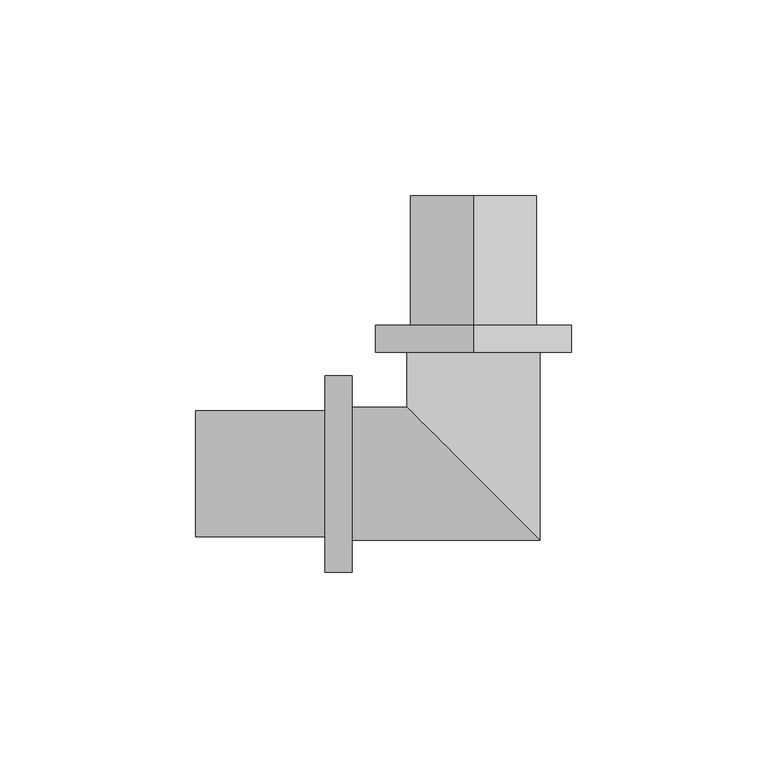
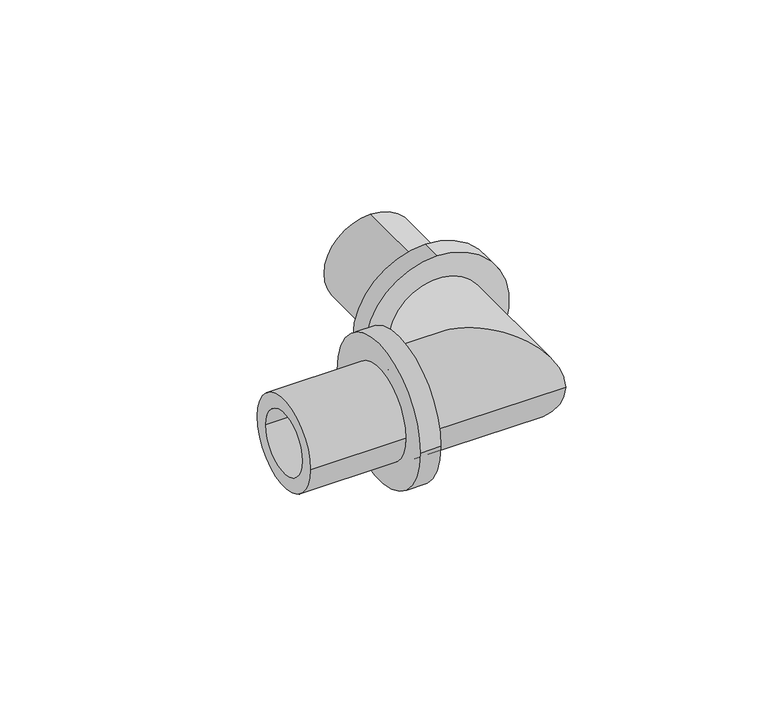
"""IFC4 building model written with IfcOpenShell, lengths in millimetres: pipe fitting geometry, RAUTITAN_Corner_PX : RTI PX C DE."""

from ifc_helpers import new_model, si_unit, frame, origin, place, context, project, spatial, polyline, circle_curve, ellipse_curve, source, transform, mapped, element, save
from ifc_brep_helpers import plane_surface, cylinder_surface, revolved_surface, advanced_brep


def pipe_fitting_2a92aeec(model_context):
    return source(origin(), model_context, "Body", "AdvancedBrep", [
        advanced_brep(
        [(0.0, 38.0, 25.1), (0.0, 38.0, -25.1), (0.0, 31.0, -25.1), (0.0, 31.0, 25.1), (0.0, 71.0, 16.1), (0.0, 71.0, -16.1), (0.0, 38.0, -16.1), (0.0, 38.0, 16.1), (0.0, 31.0, 11.0), (0.0, 31.0, -11.0), (0.0, 71.0, -11.0), (0.0, 71.0, 11.0)],
        [
            (0, 1, circle_curve(frame((0.0, 38.0, 0.0), z_axis=(0.0, -1.0, 0.0), x_axis=(0.0, 0.0, -1.0)), 25.1)),
            (1, 2),
            (2, 3, circle_curve(frame((0.0, 31.0, 0.0), z_axis=(0.0, 1.0, 0.0), x_axis=(0.0, 0.0, -1.0)), 25.1)),
            (3, 0),
            (4, 5, circle_curve(frame((0.0, 71.0, 0.0), z_axis=(0.0, -1.0, 0.0), x_axis=(0.0, 0.0, -1.0)), 16.1)),
            (5, 6),
            (6, 7, circle_curve(frame((0.0, 38.0, 0.0), z_axis=(0.0, 1.0, 0.0), x_axis=(0.0, 0.0, -1.0)), 16.1)),
            (7, 4),
            (8, 9, circle_curve(frame((0.0, 31.0, 0.0), z_axis=(0.0, -1.0, 0.0), x_axis=(0.0, 0.0, -1.0)), 11.0)),
            (9, 10),
            (10, 11, circle_curve(frame((0.0, 71.0, 0.0), z_axis=(0.0, 1.0, 0.0), x_axis=(0.0, 0.0, -1.0)), 11.0)),
            (11, 8),
            (1, 0, circle_curve(frame((0.0, 38.0, 0.0), z_axis=(0.0, -1.0, 0.0), x_axis=(0.0, 0.0, 1.0)), 25.1)),
            (3, 2, circle_curve(frame((0.0, 31.0, 0.0), z_axis=(0.0, 1.0, 0.0), x_axis=(0.0, 0.0, 1.0)), 25.1)),
            (6, 7, circle_curve(frame((0.0, 38.0, 0.0), z_axis=(0.0, -1.0, 0.0), x_axis=(0.0, 0.0, 1.0)), 16.1)),
            (5, 4, circle_curve(frame((0.0, 71.0, 0.0), z_axis=(0.0, -1.0, 0.0), x_axis=(0.0, 0.0, 1.0)), 16.1)),
            (10, 11, circle_curve(frame((0.0, 71.0, 0.0), z_axis=(0.0, -1.0, 0.0), x_axis=(0.0, 0.0, 1.0)), 11.0)),
            (9, 8, circle_curve(frame((0.0, 31.0, 0.0), z_axis=(0.0, -1.0, 0.0), x_axis=(0.0, 0.0, 1.0)), 11.0)),
        ],
        [
            cylinder_surface(frame((0.0, 31.0, 0.0), z_axis=(0.0, 1.0, 0.0), x_axis=(0.0, 0.0, -1.0)), 25.1),
            cylinder_surface(frame((0.0, 31.0, 0.0), z_axis=(0.0, 1.0, 0.0), x_axis=(0.0, 0.0, -1.0)), 16.1),
            revolved_surface(polyline([(0.0, 71.0, -11.0), (0.0, 31.0, -11.0)]), (0.0, 31.0, 0.0), (0.0, 1.0, 0.0)),
            cylinder_surface(frame((0.0, 31.0, 0.0), z_axis=(0.0, 1.0, 0.0), x_axis=(0.0, 0.0, 1.0)), 25.1),
            plane_surface(frame((0.0, 38.0, 0.0), z_axis=(0.0, 1.0, 0.0), x_axis=(0.0, 0.0, 1.0))),
            cylinder_surface(frame((0.0, 31.0, 0.0), z_axis=(0.0, 1.0, 0.0), x_axis=(0.0, 0.0, 1.0)), 16.1),
            plane_surface(frame((0.0, 71.0, 0.0), z_axis=(0.0, 1.0, 0.0), x_axis=(0.0, 0.0, 1.0))),
            revolved_surface(polyline([(0.0, 71.0, 11.0), (0.0, 31.0, 11.0)]), (0.0, 31.0, 0.0), (0.0, 1.0, 0.0)),
            plane_surface(frame((0.0, 31.0, 0.0), z_axis=(0.0, -1.0, 0.0), x_axis=(0.0, 0.0, 1.0))),
        ],
        [
            (0, [[1, 2, 3, 4]]),
            (1, [[5, 6, 7, 8]]),
            (2, [[9, 10, 11, 12]]),
            (3, [[13, -4, 14, -2]]),
            (4, [[-13, -1], [15, -7]]),
            (5, [[16, -8, -15, -6]]),
            (6, [[-16, -5], [17, -11]]),
            (7, [[18, -12, -17, -10]]),
            (8, [[-14, -3], [-18, -9]]),
        ],
    ),
        advanced_brep(
        [(-38.0, -25.1, 0.0), (-38.0, 25.1, 0.0), (-31.0, 25.1, 0.0), (-31.0, -25.1, 0.0), (-71.0, -16.1, 0.0), (-71.0, 16.1, 0.0), (-38.0, 16.1, 0.0), (-38.0, -16.1, 0.0), (-31.0, -11.0, 0.0), (-31.0, 11.0, 0.0), (-71.0, 11.0, 0.0), (-71.0, -11.0, 0.0)],
        [
            (0, 1, circle_curve(frame((-38.0, 0.0, 0.0), z_axis=(1.0, 0.0, 0.0), x_axis=(0.0, 1.0, 0.0)), 25.1)),
            (1, 2),
            (2, 3, circle_curve(frame((-31.0, 0.0, 0.0), z_axis=(-1.0, 0.0, 0.0), x_axis=(0.0, 1.0, 0.0)), 25.1)),
            (3, 0),
            (4, 5, circle_curve(frame((-71.0, 0.0, 0.0), z_axis=(1.0, 0.0, 0.0), x_axis=(0.0, 1.0, 0.0)), 16.1)),
            (5, 6),
            (6, 7, circle_curve(frame((-38.0, 0.0, 0.0), z_axis=(-1.0, 0.0, 0.0), x_axis=(0.0, 1.0, 0.0)), 16.1)),
            (7, 4),
            (8, 9, circle_curve(frame((-31.0, 0.0, 0.0), z_axis=(1.0, 0.0, 0.0), x_axis=(0.0, 1.0, 0.0)), 11.0)),
            (9, 10),
            (10, 11, circle_curve(frame((-71.0, 0.0, 0.0), z_axis=(-1.0, 0.0, 0.0), x_axis=(0.0, 1.0, 0.0)), 11.0)),
            (11, 8),
            (1, 0, circle_curve(frame((-38.0, 0.0, 0.0), z_axis=(1.0, 0.0, 0.0), x_axis=(0.0, -1.0, 0.0)), 25.1)),
            (3, 2, circle_curve(frame((-31.0, 0.0, 0.0), z_axis=(-1.0, 0.0, 0.0), x_axis=(0.0, -1.0, 0.0)), 25.1)),
            (6, 7, circle_curve(frame((-38.0, 0.0, 0.0), z_axis=(1.0, 0.0, 0.0), x_axis=(0.0, -1.0, 0.0)), 16.1)),
            (5, 4, circle_curve(frame((-71.0, 0.0, 0.0), z_axis=(1.0, 0.0, 0.0), x_axis=(0.0, -1.0, 0.0)), 16.1)),
            (10, 11, circle_curve(frame((-71.0, 0.0, 0.0), z_axis=(1.0, 0.0, 0.0), x_axis=(0.0, -1.0, 0.0)), 11.0)),
            (9, 8, circle_curve(frame((-31.0, 0.0, 0.0), z_axis=(1.0, 0.0, 0.0), x_axis=(0.0, -1.0, 0.0)), 11.0)),
        ],
        [
            cylinder_surface(frame((-31.0, 0.0, 0.0), z_axis=(-1.0, 0.0, 0.0), x_axis=(0.0, 1.0, 0.0)), 25.1),
            cylinder_surface(frame((-31.0, 0.0, 0.0), z_axis=(-1.0, 0.0, 0.0), x_axis=(0.0, 1.0, 0.0)), 16.1),
            revolved_surface(polyline([(-71.0, 11.0, 0.0), (-31.0, 11.0, 0.0)]), (-31.0, 0.0, 0.0), (-1.0, 0.0, 0.0)),
            cylinder_surface(frame((-31.0, 0.0, 0.0), z_axis=(-1.0, 0.0, 0.0), x_axis=(0.0, -1.0, 0.0)), 25.1),
            plane_surface(frame((-38.0, 0.0, 0.0), z_axis=(-1.0, 0.0, 0.0), x_axis=(0.0, -1.0, 0.0))),
            cylinder_surface(frame((-31.0, 0.0, 0.0), z_axis=(-1.0, 0.0, 0.0), x_axis=(0.0, -1.0, 0.0)), 16.1),
            plane_surface(frame((-71.0, 0.0, 0.0), z_axis=(-1.0, 0.0, 0.0), x_axis=(0.0, -1.0, 0.0))),
            revolved_surface(polyline([(-71.0, -11.0, 0.0), (-31.0, -11.0, 0.0)]), (-31.0, 0.0, 0.0), (-1.0, 0.0, 0.0)),
            plane_surface(frame((-31.0, 0.0, 0.0), z_axis=(1.0, 0.0, 0.0), x_axis=(0.0, -1.0, 0.0))),
        ],
        [
            (0, [[1, 2, 3, 4]]),
            (1, [[5, 6, 7, 8]]),
            (2, [[9, 10, 11, 12]]),
            (3, [[13, -4, 14, -2]]),
            (4, [[-13, -1], [15, -7]]),
            (5, [[16, -8, -15, -6]]),
            (6, [[-16, -5], [17, -11]]),
            (7, [[18, -12, -17, -10]]),
            (8, [[-14, -3], [-18, -9]]),
        ],
    ),
        advanced_brep(
        [(-31.0, -17.0, 0.0), (-31.0, 17.0, 0.0), (-31.0, -11.0, 0.0), (-31.0, 11.0, 0.0), (-11.0, 11.0, 0.0), (11.0, -11.0, 0.0), (17.0, 31.0, 0.0), (-17.0, 31.0, 0.0), (11.0, 31.0, 0.0), (-11.0, 31.0, 0.0), (17.0, -17.0, 0.0), (-17.0, 17.0, 0.0)],
        [
            (0, 1, circle_curve(frame((-31.0, 0.0, 0.0), z_axis=(-1.0, 0.0, 0.0), x_axis=(0.0, 1.0, 0.0)), 17.0)),
            (1, 0, circle_curve(frame((-31.0, 0.0, 0.0), z_axis=(-1.0, 0.0, 0.0), x_axis=(0.0, 1.0, 0.0)), 17.0)),
            (2, 3, circle_curve(frame((-31.0, 0.0, 0.0), z_axis=(1.0, 0.0, 0.0), x_axis=(0.0, 1.0, 0.0)), 11.0)),
            (3, 2, circle_curve(frame((-31.0, 0.0, 0.0), z_axis=(1.0, 0.0, 0.0), x_axis=(0.0, 1.0, 0.0)), 11.0)),
            (3, 4),
            (4, 5, ellipse_curve(frame((0.0, 0.0, 0.0), z_axis=(0.7071067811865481, 0.7071067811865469, 0.0), x_axis=(0.7071067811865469, -0.7071067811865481, 0.0)), 15.5563492, 11.0)),
            (5, 2),
            (5, 4, ellipse_curve(frame((0.0, 0.0, 0.0), z_axis=(0.7071067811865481, 0.7071067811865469, 0.0), x_axis=(0.7071067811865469, -0.7071067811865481, 0.0)), 15.5563492, 11.0)),
            (6, 7, circle_curve(frame((0.0, 31.0, 0.0), z_axis=(0.0, 1.0, 0.0), x_axis=(-1.0, 0.0, 0.0)), 17.0)),
            (7, 6, circle_curve(frame((0.0, 31.0, 0.0), z_axis=(0.0, 1.0, 0.0), x_axis=(-1.0, 0.0, 0.0)), 17.0)),
            (8, 9, circle_curve(frame((0.0, 31.0, 0.0), z_axis=(0.0, -1.0, 0.0), x_axis=(-1.0, 0.0, 0.0)), 11.0)),
            (9, 8, circle_curve(frame((0.0, 31.0, 0.0), z_axis=(0.0, -1.0, 0.0), x_axis=(-1.0, 0.0, 0.0)), 11.0)),
            (4, 9),
            (8, 5),
            (0, 10),
            (10, 11, ellipse_curve(frame((0.0, 0.0, 0.0), z_axis=(-0.7071067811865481, -0.7071067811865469, 0.0), x_axis=(-0.7071067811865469, 0.7071067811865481, 0.0)), 24.0416306, 17.0)),
            (11, 1),
            (11, 10, ellipse_curve(frame((0.0, 0.0, 0.0), z_axis=(-0.7071067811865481, -0.7071067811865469, 0.0), x_axis=(-0.7071067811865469, 0.7071067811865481, 0.0)), 24.0416306, 17.0)),
            (10, 6),
            (7, 11),
        ],
        [
            plane_surface(frame((-31.0, 0.0, 0.0), z_axis=(-1.0, 0.0, 0.0), x_axis=(0.0, 0.0, 1.0))),
            revolved_surface(polyline([(11.00000000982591, 11.0, 0.0), (-31.0, 11.0, 0.0)]), (-31.0, 0.0, 0.0), (1.0, 0.0, 0.0)),
            plane_surface(frame((0.0, 31.0, 0.0), z_axis=(0.0, 1.0, 0.0), x_axis=(0.0, 0.0, 1.0))),
            revolved_surface(polyline([(-11.0, 31.0, 0.0), (-11.0, -11.000000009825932, 0.0)]), (0.0, 0.0, 0.0), (0.0, 1.0, 0.0)),
            cylinder_surface(frame((-31.0, 0.0, 0.0), z_axis=(-1.0, 0.0, 0.0), x_axis=(0.0, 1.0, 0.0)), 17.0),
            cylinder_surface(frame((0.0, 0.0, 0.0), z_axis=(0.0, -1.0, 0.0), x_axis=(-1.0, 0.0, 0.0)), 17.0),
        ],
        [
            (0, [[1, 2], [3, 4]]),
            (1, [[-4, 5, 6, 7]]),
            (1, [[-3, -7, 8, -5]]),
            (2, [[9, 10], [11, 12]]),
            (3, [[-6, 13, -11, 14]]),
            (3, [[-8, -14, -12, -13]]),
            (4, [[-1, 15, 16, 17]]),
            (4, [[-2, -17, 18, -15]]),
            (5, [[-16, 19, -10, 20]]),
            (5, [[-18, -20, -9, -19]]),
        ],
    ),
    ])


if __name__ == "__main__":
    model = new_model("IFC4")
    model_context = context("Model", 3, world=origin())
    ifc_project = project(units=[si_unit("LENGTHUNIT", "METRE", prefix="MILLI")], contexts=[model_context])
    site = spatial("IfcSite", under=ifc_project)
    building = spatial("IfcBuilding", under=site)
    placement = place(None, origin())
    pipe_fitting_shape = pipe_fitting_2a92aeec(model_context)
    element("IfcPipeFitting", 1, ObjectType="RAUTITAN_Corner_PX : RTI PX C DE", at=placement, inside=building, context=model_context, shape_type="MappedRepresentation", body=[
        mapped(pipe_fitting_shape, transform((0.0, 0.0, 0.0), x_axis=(1.0, 0.0, 0.0), y_axis=(0.0, 1.0, 0.0), z_axis=(0.0, 0.0, 1.0))),
    ])
    save(model, "model.ifc")
